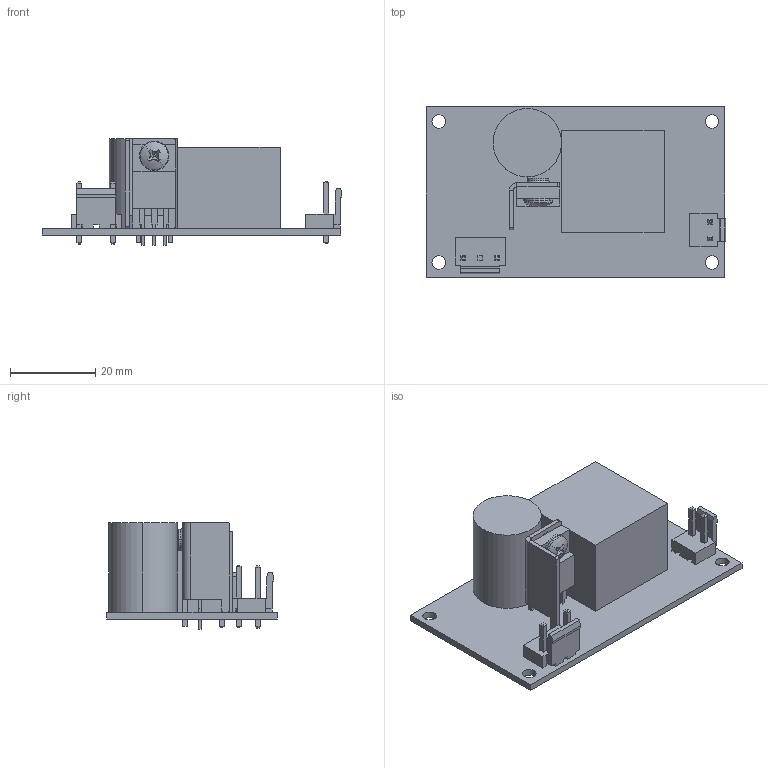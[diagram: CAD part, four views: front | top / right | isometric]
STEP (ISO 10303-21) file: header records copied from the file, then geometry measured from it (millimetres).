
FILE_DESCRIPTION (( 'STEP AP203' ), '1' );
FILE_NAME ('SNP-HF37-A.STEP', '2015-11-03T07:10:01', ( 'mech4' ), ( '' ), 'SwSTEP 2.0', 'SolidWorks 2014', '' );
FILE_SCHEMA (( 'CONFIG_CONTROL_DESIGN' ));
Length unit declared in the file: millimetre
Products named in the file (25): 360-HF39; PIN-1.14x14.6; TO-220; 240-J047-L; 全710-VH02; 790-5135; 800-H38Q; 710-VH3; SNP-HF37-A; 710-VH02座; 710-B2P3; 855-HF38-M
Assembly tree (15 placements, depth 3):
  360-HF39
  TO-220
  240-J047-L
  800-H38Q
  SNP-HF37-A
    790-5135
Bounding box: 70.28 x 40 x 25 mm (x, y, z)
Volume: 21254.5 mm3; surface area: 13241.7 mm2
Topology: 13 solids, 13 shells, 273 faces, 686 edges, 445 vertices
Faces by surface type: plane 208, cylinder 49, bspline 7, torus 4, cone 3, sphere 2
Entity records: 11083 total; most frequent: CARTESIAN_POINT 3058, ORIENTED_EDGE 1202, DIRECTION 1133, EDGE_CURVE 601, LINE 461, VECTOR 461, VERTEX_POINT 395, AXIS2_PLACEMENT_3D 336
